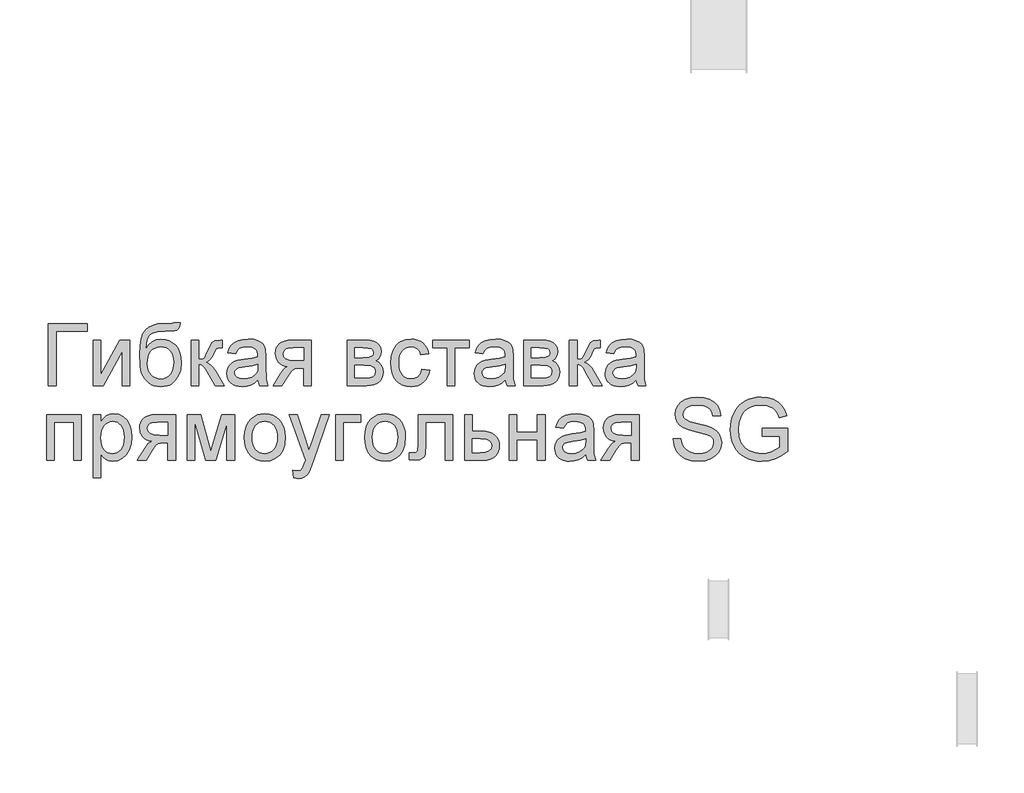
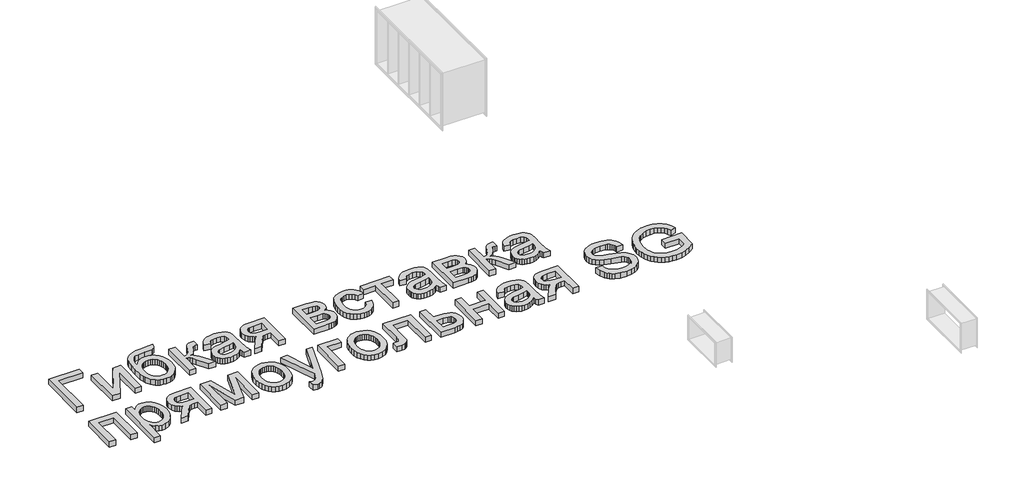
# One storey, part 24 of 31: 1 proxy.
"""IFC4 building model written with IfcOpenShell, lengths in millimetres."""

import ifcopenshell
import ifcopenshell.guid

model = None  # the IFC model being written
_history = None  # IfcOwnerHistory: only IFC2X3 demands one
_inside = {}  # id of a spatial element -> (the spatial element, [elements in it])
_under = {}  # id of a project, library or spatial element -> (it, [spatial elements below it])
_declared = {}  # id of a project -> (the project, [libraries it declares])
_typed = {}  # id of a type object -> (the type object, [elements of that type])
_made_of = {}  # id of a material, layer set ... -> (it, [elements and type objects made of it])


def new_model(schema):
    """Start an empty IFC model of exactly this schema.

    Asked for "IFC4X3", IfcOpenShell would pick the latest addendum, in which some entities
    have other attributes; the version numbers below select the first issue.
    IFC2X3 requires an IfcOwnerHistory on every rooted entity: one is made here for all.
    """
    global model, _history
    if schema == "IFC4X3":
        model = ifcopenshell.file(schema_version=(4, 3, 0, 0))
    else:
        model = ifcopenshell.file(schema=schema)
    _inside.clear()
    _under.clear()
    _declared.clear()
    _typed.clear()
    _made_of.clear()
    _history = None
    if model.schema == "IFC2X3":
        org = make("IfcOrganization", Name="unknown")
        user = make(
            "IfcPersonAndOrganization",
            ThePerson=make("IfcPerson", FamilyName="unknown"),
            TheOrganization=org,
        )
        app = make(
            "IfcApplication",
            ApplicationDeveloper=org,
            Version="unknown",
            ApplicationFullName="unknown",
            ApplicationIdentifier="unknown",
        )
        _history = make(
            "IfcOwnerHistory",
            OwningUser=user,
            OwningApplication=app,
            ChangeAction="ADDED",
            CreationDate=0,
        )
    return model


def make(cls, **values):
    """One entity of the class cls with the attributes given. An attribute that is None is left unset."""
    return model.create_entity(
        cls, **{name: value for name, value in values.items() if value is not None}
    )


def rooted(cls, **values):
    """An entity with a GlobalId (a new one), such as an element, a storey or a relation."""
    return make(cls, GlobalId=ifcopenshell.guid.new(), OwnerHistory=_history, **values)


def si_unit(unit_type, name, prefix=None):
    """IfcSIUnit, for example si_unit("LENGTHUNIT", "METRE", prefix="MILLI")."""
    return make("IfcSIUnit", UnitType=unit_type, Prefix=prefix, Name=name)


def assignment(units):
    """IfcUnitAssignment: the units of a project."""
    return None if units is None else make("IfcUnitAssignment", Units=units)


def point(xyz):
    """IfcCartesianPoint."""
    return None if xyz is None else make("IfcCartesianPoint", Coordinates=xyz)


def direction(xyz):
    """IfcDirection."""
    return None if xyz is None else make("IfcDirection", DirectionRatios=xyz)


def frame(location, z_axis=None, x_axis=None):
    """IfcAxis2Placement3D, a coordinate frame: its origin and axes. An axis left out is left unset."""
    return make(
        "IfcAxis2Placement3D",
        Location=point(location),
        Axis=direction(z_axis),
        RefDirection=direction(x_axis),
    )


def origin():
    """The frame at (0, 0, 0) with its axes left unset."""
    return frame((0.0, 0.0, 0.0))


def origin_with_axes():
    """The frame at (0, 0, 0) with the z axis (0, 0, 1) and the x axis (1, 0, 0) written out."""
    return frame((0.0, 0.0, 0.0), z_axis=(0.0, 0.0, 1.0), x_axis=(1.0, 0.0, 0.0))


def place(relative_to, where):
    """IfcLocalPlacement: puts the frame where relative to a parent placement (None: the world)."""
    return make(
        "IfcLocalPlacement", PlacementRelTo=relative_to, RelativePlacement=where
    )


def context(
    kind, dimensions, precision=None, world=None, true_north=None, identifier=None
):
    """IfcGeometricRepresentationContext, for example the 3D "Model" context."""
    return make(
        "IfcGeometricRepresentationContext",
        ContextIdentifier=identifier,
        ContextType=kind,
        CoordinateSpaceDimension=dimensions,
        Precision=precision,
        WorldCoordinateSystem=world,
        TrueNorth=true_north,
    )


def project(units=None, contexts=None):
    """IfcProject with its units and contexts."""
    return rooted(
        "IfcProject",
        Name="project",
        RepresentationContexts=contexts,
        UnitsInContext=assignment(units),
    )


def spatial(cls, under=None, at=None, **own):
    """A site, building, storey or space (cls), placed at a placement, below another one or the project."""
    s = rooted(cls, ObjectPlacement=at, **own)
    if under is not None:
        _under.setdefault(under.id(), (under, []))[1].append(s)
    return s


def polyline(points):
    """IfcPolyline through the points."""
    return make("IfcPolyline", Points=[point(p) for p in points])


def outline(outer, holes=None, kind="AREA"):
    """IfcArbitraryClosedProfileDef: a profile drawn as a closed curve; with holes, ...WithVoids."""
    if holes is None:
        return make("IfcArbitraryClosedProfileDef", ProfileType=kind, OuterCurve=outer)
    return make(
        "IfcArbitraryProfileDefWithVoids",
        ProfileType=kind,
        OuterCurve=outer,
        InnerCurves=holes,
    )


def extrude(swept, where, along, depth):
    """IfcExtrudedAreaSolid: the profile swept, set in the frame where, extruded along a direction by depth."""
    return make(
        "IfcExtrudedAreaSolid",
        SweptArea=swept,
        Position=where,
        ExtrudedDirection=direction(along),
        Depth=depth,
    )


def shape(context_of_items, identifier, shape_type, items):
    """IfcShapeRepresentation: the items that make up one representation, for example the "Body"."""
    return make(
        "IfcShapeRepresentation",
        ContextOfItems=context_of_items,
        RepresentationIdentifier=identifier,
        RepresentationType=shape_type,
        Items=items,
    )


def made_of(thing, what):
    """Note that an element or type object is made of a material, layer set ...; save() writes the relation."""
    if what is not None:
        _made_of.setdefault(what.id(), (what, []))[1].append(thing)
    return thing


def element(
    cls,
    number,
    at=None,
    inside=None,
    cuts=None,
    type_object=None,
    material=None,
    context=None,
    identifier="Body",
    shape_type=None,
    held_by="IfcProductDefinitionShape",
    body=None,
    shapes=None,
    **own,
):
    """One element of the class cls, such as IfcWall. Its Tag is "e" and its number.

    at: its placement. inside: the storey or other place that contains it. cuts: it is an
    opening in that element (IfcRelVoidsElement). A single representation is given by context,
    identifier, shape_type and body (its items); several are given by shapes. held_by: the class
    of the entity that holds the representations. save() writes the other relations.
    """
    e = rooted(cls, Tag="e%d" % number, ObjectPlacement=at, **own)
    if body is not None:
        shapes = [shape(context, identifier, shape_type, body)]
    if shapes is not None:
        e.Representation = make(held_by, Representations=shapes)
    if inside is not None:
        _inside.setdefault(inside.id(), (inside, []))[1].append(e)
    if cuts is not None:
        rooted(
            "IfcRelVoidsElement", RelatingBuildingElement=cuts, RelatedOpeningElement=e
        )
    if type_object is not None:
        _typed.setdefault(type_object.id(), (type_object, []))[1].append(e)
    return made_of(e, material)


def aggregate(whole, parts):
    """IfcRelAggregates: a whole, such as a stair, and the parts it consists of."""
    return rooted("IfcRelAggregates", RelatingObject=whole, RelatedObjects=parts)


def save(model, path):
    """Write the relations noted so far, then the file.

    IfcRelAggregates (storeys below a building ...), IfcRelContainedInSpatialStructure (elements
    in a storey), IfcRelDefinesByType, IfcRelAssociatesMaterial and IfcRelDeclares: one each for
    every whole, place, type object, material and project.
    """
    for whole, parts in _under.values():
        aggregate(whole, parts)
    for where, things in _inside.values():
        rooted(
            "IfcRelContainedInSpatialStructure",
            RelatedElements=things,
            RelatingStructure=where,
        )
    for kind, things in _typed.values():
        rooted("IfcRelDefinesByType", RelatedObjects=things, RelatingType=kind)
    for what, things in _made_of.values():
        rooted("IfcRelAssociatesMaterial", RelatedObjects=things, RelatingMaterial=what)
    for by, libraries in _declared.values():
        rooted("IfcRelDeclares", RelatingContext=by, RelatedDefinitions=libraries)
    model.write(path)


model = new_model("IFC4")

# Units and contexts
model_context = context("Model", 3, world=origin())
ifc_project = project(units=[si_unit("LENGTHUNIT", "METRE", prefix="MILLI")], contexts=[model_context])

# Site, building, storey
site = spatial("IfcSite", under=ifc_project)
building = spatial("IfcBuilding", under=site)
storey = spatial("IfcBuildingStorey", under=building, Name="Этаж 01", Elevation=0.0)

# Proxy
placement = place(None, origin())
element("IfcBuildingElementProxy", 1, Name="450 мм Arial", ObjectType="450 мм Arial", at=placement, inside=storey, context=model_context, shape_type="SweptSolid", body=[
    extrude(outline(polyline([(62278.9545401, -43063.4194094), (62559.9896294, -43063.4194094), (62559.9896294, -43119.6264273), (62335.1615579, -43119.6264273), (62335.1615579, -43513.0755522), (62278.9545401, -43513.0755522), (62278.9545401, -43063.4194094)])), origin_with_axes(), (0.0, 0.0, 1.0), 50.0),
    extrude(outline(polyline([(62602.1448927, -43182.8593223), (62658.3519106, -43182.8593223), (62658.3519106, -43434.6931094), (62796.4543099, -43182.8593223), (62869.1282275, -43182.8593223), (62869.1282275, -43513.0755522), (62812.9212097, -43513.0755522), (62812.9212097, -43262.7786758), (62675.697045, -43513.0755522), (62602.1448927, -43513.0755522), (62602.1448927, -43182.8593223)])), origin_with_axes(), (0.0, 0.0, 1.0), 50.0),
    extrude(outline(polyline([(63185.292703, -43056.3935322), (63234.4738436, -43056.3935322), (63229.149546, -43083.111077), (63219.9829718, -43100.2503752), (63207.2760141, -43110.391241), (63191.3305662, -43116.1134886), (63122.4989252, -43119.6264273), (63065.3450606, -43122.8649175), (63029.7902795, -43132.5803884), (63008.520534, -43149.4315158), (62994.2217761, -43174.0769758), (62985.8099348, -43206.7088822), (62982.2009392, -43247.5193487), (63004.8017592, -43216.1224599), (63030.8880729, -43193.7274762), (63060.4873252, -43180.3069529), (63093.626961, -43175.8334451), (63124.2485333, -43178.6774159), (63152.1118999, -43187.2093284), (63177.2170609, -43201.4291824), (63199.5640161, -43221.3369781), (63217.9108869, -43246.095648), (63231.0157946, -43274.8681248), (63238.8787393, -43307.6544083), (63241.4997208, -43344.4544987), (63236.298925, -43398.109147), (63229.7979302, -43420.9638317), (63220.6965374, -43441.1700899), (63197.9584934, -43474.6390637), (63171.3507278, -43499.5178047), (63155.7895076, -43508.5231406), (63137.648473, -43514.9555233), (63093.626961, -43520.1014294), (63066.6727044, -43518.4444477), (63042.8951873, -43513.4735023), (63022.2944096, -43505.1885934), (63004.8703712, -43493.5897208), (62976.8903641, -43463.3729598), (62956.2930169, -43425.7460938), (62948.8966345, -43401.2481498), (62943.6135041, -43369.0862362), (62939.3869999, -43281.7705002), (62942.0525793, -43222.5891486), (62950.0493175, -43173.9260292), (62963.3772144, -43135.781142), (62982.0362702, -43108.1544871), (63006.2254599, -43088.5828906), (63036.1437584, -43074.6031788), (63071.7911658, -43066.2153518), (63113.167682, -43063.4194094), (63175.7419011, -43062.1569471), (63185.292703, -43056.3935322)]), holes=[polyline([(63185.292703, -43342.6980294), (63183.7695147, -43319.4831313), (63179.1999501, -43298.4706811), (63171.5840089, -43279.6606787), (63160.9216913, -43263.0531242), (63147.4874456, -43249.4850849), (63131.5557201, -43239.7936283), (63113.1265148, -43233.9787543), (63092.1998296, -43232.040463), (63070.3606038, -43234.0885336), (63051.1698044, -43240.2327456), (63034.6274314, -43250.4730989), (63020.7334847, -43264.8095935), (63009.7349679, -43282.569831), (63001.8788845, -43303.081413), (62997.1652344, -43326.3443395), (62995.5940177, -43352.3586105), (62997.3299034, -43377.8308461), (63002.5375604, -43400.1263423), (63011.2169889, -43419.245099), (63023.3681886, -43435.1871163), (63038.0648967, -43447.746558), (63054.3808499, -43456.7175878), (63072.3160482, -43462.1002056), (63091.8704916, -43463.8944116), (63111.6925222, -43461.8188961), (63129.5522473, -43455.5923496), (63145.4496667, -43445.2147722), (63159.3847807, -43430.6861637), (63170.7194967, -43412.7338124), (63178.8157224, -43392.0850062), (63183.6734578, -43368.7397452), (63185.292703, -43342.6980294)])]), origin_with_axes(), (0.0, 0.0, 1.0), 50.0),
    extrude(outline(polyline([(63311.7584931, -43182.8593223), (63367.965511, -43182.8593223), (63367.965511, -43323.376867), (63390.8270568, -43320.8519423), (63405.6198218, -43313.2771684), (63418.7110071, -43293.5168887), (63436.467814, -43254.4354466), (63450.7802944, -43222.4759387), (63462.101288, -43203.6625057), (63472.6675486, -43193.4118606), (63484.7158303, -43187.1407163), (63525.82819, -43182.8593223), (63536.5865645, -43182.8593223), (63536.5865645, -43239.3956782), (63521.4370168, -43239.0663402), (63503.8723237, -43240.5483612), (63493.9921838, -43244.9944241), (63474.6710214, -43281.9900589), (63462.8011312, -43306.6492413), (63452.0015894, -43322.0046253), (63438.9241265, -43332.2552704), (63420.2204729, -43341.600236), (63438.0321695, -43349.5112091), (63455.679197, -43363.4737679), (63473.1615556, -43383.4879123), (63490.4792452, -43409.5536424), (63550.638319, -43513.0755522), (63486.7467479, -43513.0755522), (63427.7952468, -43411.749229), (63411.8772437, -43384.7846807), (63398.1548272, -43368.8804), (63384.2951866, -43361.0997898), (63367.965511, -43358.5062531), (63367.965511, -43513.0755522), (63311.7584931, -43513.0755522), (63311.7584931, -43182.8593223)])), origin_with_axes(), (0.0, 0.0, 1.0), 50.0),
    extrude(outline(polyline([(63796.5440221, -43470.9202888), (63769.6892531, -43493.9465037), (63742.0385839, -43509.0137169), (63712.9607834, -43517.3295013), (63681.8246204, -43520.1014294), (63656.7983634, -43518.4341558), (63634.8527889, -43513.432335), (63615.9878968, -43505.095967), (63600.2036873, -43493.4250518), (63587.7403025, -43479.1605999), (63578.8378848, -43463.0436218), (63573.4964342, -43445.0741174), (63571.7159507, -43425.2520868), (63574.4055443, -43401.9514237), (63582.4743252, -43380.7914575), (63594.9205569, -43362.6778677), (63610.7425031, -43348.5163339), (63629.3363774, -43337.8128491), (63650.0983936, -43330.0734062), (63698.7306375, -43321.6203977), (63756.2001177, -43312.7282718), (63796.2146841, -43302.2992353), (63796.5440221, -43289.7843915), (63792.6743007, -43264.6998141), (63781.0651363, -43248.2878041), (63755.1023244, -43236.1022982), (63718.9300346, -43232.040463), (63685.4473384, -43234.743779), (63662.0643407, -43242.8537271), (63646.1188928, -43257.8523283), (63634.9488458, -43281.2216036), (63578.7418279, -43274.1957263), (63588.498466, -43243.4575135), (63603.0579499, -43219.3060605), (63623.7787988, -43200.8356879), (63652.0195319, -43187.1407163), (63686.5588541, -43178.6602629), (63726.1754705, -43175.8334451), (63764.1728417, -43178.3309249), (63794.2935458, -43185.8233643), (63817.0041451, -43197.0894682), (63832.7712016, -43210.9079416), (63843.2276829, -43227.9923501), (63850.0065567, -43249.0562594), (63852.75104, -43298.2374), (63852.75104, -43368.1668343), (63855.6053026, -43465.8155499), (63866.8027944, -43513.0755522), (63810.5957766, -43513.0755522), (63801.5938714, -43493.5348312), (63796.5440221, -43470.9202888)]), holes=[polyline([(63796.5440221, -43358.5062531), (63758.779932, -43367.8649412), (63705.8662941, -43375.7416082), (63657.5084985, -43384.8532927), (63644.9250426, -43391.0832698), (63635.6075218, -43399.6735025), (63629.8441069, -43409.9653149), (63627.9229685, -43421.3000309), (63632.1083056, -43438.0139341), (63644.6643166, -43451.7089058), (63665.3165534, -43460.8480351), (63693.7905676, -43463.8944116), (63723.9798838, -43460.5324196), (63750.6562614, -43450.4464435), (63772.2827898, -43435.5850664), (63787.3225582, -43417.8968716), (63793.9916526, -43399.6735025), (63796.2146841, -43374.4242562), (63796.5440221, -43358.5062531)])]), origin_with_axes(), (0.0, 0.0, 1.0), 50.0),
    extrude(outline(polyline([(64182.9672698, -43182.8593223), (64182.9672698, -43513.0755522), (64126.760252, -43513.0755522), (64126.760252, -43386.609762), (64096.1318184, -43386.609762), (64071.7059171, -43388.3936762), (64054.4156724, -43393.7454186), (64037.7566588, -43409.3066389), (64015.2244509, -43441.7189866), (63970.4344836, -43513.0755522), (63905.4451192, -43513.0755522), (63961.8716957, -43422.8369415), (63986.791604, -43390.4520387), (63998.5105477, -43381.0110161), (64009.7354843, -43376.0709462), (63989.09697, -43371.5082427), (63971.3127182, -43364.2971129), (63956.3827291, -43354.4375566), (63944.3070026, -43341.929574), (63928.3341099, -43312.1793751), (63923.0098123, -43278.2575616), (63924.8280325, -43258.0169973), (63930.282693, -43239.7799058), (63939.3737939, -43223.5462872), (63952.1013352, -43209.3161413), (63968.273203, -43197.741283), (63987.6972835, -43189.4735271), (64010.3735767, -43184.5128735), (64036.3020826, -43182.8593223), (64182.9672698, -43182.8593223)]), holes=[polyline([(64126.760252, -43239.0663402), (64052.6592031, -43239.0663402), (64014.3873835, -43242.3185529), (64001.4574366, -43246.3838188), (63992.6647983, -43252.075191), (63982.5788222, -43266.1955575), (63979.2168301, -43282.5389556), (63984.1706225, -43303.9596477), (63999.0319995, -43318.8210247), (64026.4905549, -43327.5073143), (64069.2358822, -43330.4027442), (64126.760252, -43330.4027442), (64126.760252, -43239.0663402)])]), origin_with_axes(), (0.0, 0.0, 1.0), 50.0),
    extrude(outline(polyline([(64442.9247274, -43182.8593223), (64566.7558136, -43182.8593223), (64606.5645438, -43184.7392934), (64634.6543303, -43190.3792066), (64655.3202895, -43201.0278017), (64672.8575377, -43217.9338188), (64684.8372073, -43239.9582973), (64688.8304305, -43265.9622765), (64686.4152852, -43286.9164064), (64679.1698493, -43304.9888289), (64667.066678, -43320.2618784), (64650.0783264, -43332.8178895), (64670.8815098, -43344.4956659), (64687.8424165, -43363.2816541), (64699.1222429, -43387.693833), (64702.882185, -43416.2501816), (64699.7603352, -43439.2558128), (64693.3588279, -43459.0915658), (64683.6776631, -43475.7574406), (64670.7168408, -43489.2534372), (64654.4557773, -43499.6756125), (64634.873889, -43507.1200235), (64611.9711759, -43511.58667), (64585.747638, -43513.0755522), (64442.9247274, -43513.0755522), (64442.9247274, -43182.8593223)]), holes=[polyline([(64499.1317453, -43309.3251125), (64554.6800871, -43309.3251125), (64600.5129581, -43306.4708499), (64622.7981625, -43295.0537994), (64630.1671001, -43285.6127768), (64632.6234127, -43274.415285), (64628.3145739, -43257.6464921), (64615.3880576, -43246.8606727), (64592.0325047, -43241.0149233), (64556.4365564, -43239.0663402), (64499.1317453, -43239.0663402), (64499.1317453, -43309.3251125)]), polyline([(64499.1317453, -43456.8685344), (64568.0731656, -43456.8685344), (64605.6451419, -43454.3298873), (64629.2202534, -43446.7139462), (64641.8723214, -43432.868028), (64646.6751671, -43411.6394497), (64644.2737442, -43397.5739728), (64637.0694756, -43384.5788444), (64626.0092079, -43374.4105338), (64612.039788, -43368.8255103), (64562.584199, -43365.5321304), (64499.1317453, -43365.5321304), (64499.1317453, -43456.8685344)])]), origin_with_axes(), (0.0, 0.0, 1.0), 50.0),
    extrude(outline(polyline([(64983.9172742, -43393.6356393), (65040.1242921, -43400.6615165), (65034.0109555, -43427.1835169), (65024.4532925, -43450.6522797), (65011.4513029, -43471.0678048), (64995.0049867, -43488.4300922), (64975.8073261, -43502.2863023), (64954.551303, -43512.1835951), (64931.2369174, -43518.1219709), (64905.8641694, -43520.1014294), (64874.3403481, -43517.3397931), (64846.0756008, -43509.0548842), (64821.0699274, -43495.2467026), (64799.3233279, -43475.9152484), (64781.7208982, -43451.4241656), (64769.1477341, -43422.1370983), (64761.6038356, -43388.0540464), (64759.0892028, -43349.1750099), (64763.3843192, -43299.1568019), (64776.2696682, -43255.8076883), (64785.9851391, -43237.0525756), (64797.9510863, -43220.8018039), (64812.1675097, -43207.0553732), (64828.6344095, -43195.8132835), (64865.3418735, -43180.8284047), (64905.095714, -43175.8334451), (64930.0327754, -43177.5487472), (64952.5889974, -43182.6946533), (64972.7643802, -43191.2711636), (64990.5589238, -43203.278278), (65005.6707349, -43218.4415482), (65017.7979205, -43236.4865259), (65026.9404805, -43257.413211), (65033.0984149, -43281.2216036), (64976.891397, -43288.2474808), (64966.6956416, -43263.7255226), (64950.8188057, -43246.1471071), (64930.1391241, -43235.567124), (64905.5348314, -43232.040463), (64886.4366582, -43233.7763486), (64869.211595, -43238.9840057), (64853.8596416, -43247.6634341), (64840.380798, -43259.8146339), (64829.4062954, -43275.7189146), (64821.567365, -43295.6575857), (64816.8640068, -43319.6306473), (64815.2962207, -43347.6380993), (64816.8297007, -43376.0675156), (64821.4301408, -43400.3184561), (64829.097541, -43420.3909208), (64839.8319013, -43436.2849097), (64853.0431578, -43448.3640668), (64868.1412465, -43456.9920361), (64885.1261675, -43462.1688177), (64903.9979207, -43463.8944116), (64933.1031661, -43459.5855728), (64956.9664483, -43446.6590565), (64974.3253051, -43424.7855247), (64983.9172742, -43393.6356393)])), origin_with_axes(), (0.0, 0.0, 1.0), 50.0),
    extrude(outline(polyline([(65061.2019238, -43182.8593223), (65328.1852586, -43182.8593223), (65328.1852586, -43239.0663402), (65222.7971001, -43239.0663402), (65222.7971001, -43513.0755522), (65166.5900823, -43513.0755522), (65166.5900823, -43239.0663402), (65061.2019238, -43239.0663402), (65061.2019238, -43182.8593223)])), origin_with_axes(), (0.0, 0.0, 1.0), 50.0),
    extrude(outline(polyline([(65588.1427161, -43470.9202888), (65561.2879471, -43493.9465037), (65533.6372779, -43509.0137169), (65504.5594774, -43517.3295013), (65473.4233145, -43520.1014294), (65448.3970574, -43518.4341558), (65426.4514829, -43513.432335), (65407.5865909, -43505.095967), (65391.8023813, -43493.4250518), (65379.3389966, -43479.1605999), (65370.4365789, -43463.0436218), (65365.0951283, -43445.0741174), (65363.3146447, -43425.2520868), (65366.0042384, -43401.9514237), (65374.0730192, -43380.7914575), (65386.519251, -43362.6778677), (65402.3411972, -43348.5163339), (65420.9350715, -43337.8128491), (65441.6970876, -43330.0734062), (65490.3293316, -43321.6203977), (65547.7988117, -43312.7282718), (65587.8133781, -43302.2992353), (65588.1427161, -43289.7843915), (65584.2729947, -43264.6998141), (65572.6638304, -43248.2878041), (65546.7010184, -43236.1022982), (65510.5287286, -43232.040463), (65477.0460324, -43234.743779), (65453.6630348, -43242.8537271), (65437.7175868, -43257.8523283), (65426.5475398, -43281.2216036), (65370.340522, -43274.1957263), (65380.0971601, -43243.4575135), (65394.6566439, -43219.3060605), (65415.3774928, -43200.8356879), (65443.6182259, -43187.1407163), (65478.1575482, -43178.6602629), (65517.7741645, -43175.8334451), (65555.7715357, -43178.3309249), (65585.8922398, -43185.8233643), (65608.6028391, -43197.0894682), (65624.3698956, -43210.9079416), (65634.826377, -43227.9923501), (65641.6052507, -43249.0562594), (65644.349734, -43298.2374), (65644.349734, -43368.1668343), (65647.2039966, -43465.8155499), (65658.4014885, -43513.0755522), (65602.1944706, -43513.0755522), (65593.1925654, -43493.5348312), (65588.1427161, -43470.9202888)]), holes=[polyline([(65588.1427161, -43358.5062531), (65550.378626, -43367.8649412), (65497.4649881, -43375.7416082), (65449.1071925, -43384.8532927), (65436.5237366, -43391.0832698), (65427.2062158, -43399.6735025), (65421.4428009, -43409.9653149), (65419.5216626, -43421.3000309), (65423.7069996, -43438.0139341), (65436.2630107, -43451.7089058), (65456.9152475, -43460.8480351), (65485.3892616, -43463.8944116), (65515.5785779, -43460.5324196), (65542.2549555, -43450.4464435), (65563.8814838, -43435.5850664), (65578.9212523, -43417.8968716), (65585.5903467, -43399.6735025), (65587.8133781, -43374.4242562), (65588.1427161, -43358.5062531)])]), origin_with_axes(), (0.0, 0.0, 1.0), 50.0),
    extrude(outline(polyline([(65721.6343835, -43182.8593223), (65845.4654697, -43182.8593223), (65885.2741999, -43184.7392934), (65913.3639864, -43190.3792066), (65934.0299456, -43201.0278017), (65951.5671939, -43217.9338188), (65963.5468635, -43239.9582973), (65967.5400866, -43265.9622765), (65965.1249413, -43286.9164064), (65957.8795055, -43304.9888289), (65945.7763341, -43320.2618784), (65928.7879825, -43332.8178895), (65949.5911659, -43344.4956659), (65966.5520727, -43363.2816541), (65977.831899, -43387.693833), (65981.5918411, -43416.2501816), (65978.4699914, -43439.2558128), (65972.0684841, -43459.0915658), (65962.3873193, -43475.7574406), (65949.4264969, -43489.2534372), (65933.1654334, -43499.6756125), (65913.5835451, -43507.1200235), (65890.680832, -43511.58667), (65864.4572941, -43513.0755522), (65721.6343835, -43513.0755522), (65721.6343835, -43182.8593223)]), holes=[polyline([(65777.8414014, -43456.8685344), (65846.7828217, -43456.8685344), (65884.354798, -43454.3298873), (65907.9299095, -43446.7139462), (65920.5819775, -43432.868028), (65925.3848233, -43411.6394497), (65922.9834004, -43397.5739728), (65915.7791317, -43384.5788444), (65904.7188641, -43374.4105338), (65890.7494441, -43368.8255103), (65841.2938551, -43365.5321304), (65777.8414014, -43365.5321304), (65777.8414014, -43456.8685344)]), polyline([(65777.8414014, -43309.3251125), (65833.3897433, -43309.3251125), (65879.2226143, -43306.4708499), (65901.5078186, -43295.0537994), (65908.8767562, -43285.6127768), (65911.3330688, -43274.415285), (65907.02423, -43257.6464921), (65894.0977137, -43246.8606727), (65870.7421609, -43241.0149233), (65835.1462126, -43239.0663402), (65777.8414014, -43239.0663402), (65777.8414014, -43309.3251125)])]), origin_with_axes(), (0.0, 0.0, 1.0), 50.0),
    extrude(outline(polyline([(66051.8506134, -43182.8593223), (66108.0576313, -43182.8593223), (66108.0576313, -43323.376867), (66130.9191771, -43320.8519423), (66145.7119421, -43313.2771684), (66158.8031274, -43293.5168887), (66176.5599343, -43254.4354466), (66190.8724147, -43222.4759387), (66202.1934082, -43203.6625057), (66212.7596689, -43193.4118606), (66224.8079506, -43187.1407163), (66265.9203103, -43182.8593223), (66276.6786848, -43182.8593223), (66276.6786848, -43239.3956782), (66261.5291371, -43239.0663402), (66243.964444, -43240.5483612), (66234.0843041, -43244.9944241), (66214.7631417, -43281.9900589), (66202.8932515, -43306.6492413), (66192.0937097, -43322.0046253), (66179.0162468, -43332.2552704), (66160.3125932, -43341.600236), (66178.1242898, -43349.5112091), (66195.7713173, -43363.4737679), (66213.2536759, -43383.4879123), (66230.5713655, -43409.5536424), (66290.7304393, -43513.0755522), (66226.8388682, -43513.0755522), (66167.8873671, -43411.749229), (66151.969364, -43384.7846807), (66138.2469475, -43368.8804), (66124.3873069, -43361.0997898), (66108.0576313, -43358.5062531), (66108.0576313, -43513.0755522), (66051.8506134, -43513.0755522), (66051.8506134, -43182.8593223)])), origin_with_axes(), (0.0, 0.0, 1.0), 50.0),
    extrude(outline(polyline([(66536.6361424, -43470.9202888), (66509.7813734, -43493.9465037), (66482.1307042, -43509.0137169), (66453.0529037, -43517.3295013), (66421.9167407, -43520.1014294), (66396.8904837, -43518.4341558), (66374.9449092, -43513.432335), (66356.0800171, -43505.095967), (66340.2958076, -43493.4250518), (66327.8324228, -43479.1605999), (66318.9300051, -43463.0436218), (66313.5885545, -43445.0741174), (66311.808071, -43425.2520868), (66314.4976646, -43401.9514237), (66322.5664455, -43380.7914575), (66335.0126772, -43362.6778677), (66350.8346234, -43348.5163339), (66369.4284977, -43337.8128491), (66390.1905139, -43330.0734062), (66438.8227578, -43321.6203977), (66496.292238, -43312.7282718), (66536.3068044, -43302.2992353), (66536.6361424, -43289.7843915), (66532.766421, -43264.6998141), (66521.1572566, -43248.2878041), (66495.1944447, -43236.1022982), (66459.0221549, -43232.040463), (66425.5394587, -43234.743779), (66402.156461, -43242.8537271), (66386.2110131, -43257.8523283), (66375.0409661, -43281.2216036), (66318.8339482, -43274.1957263), (66328.5905863, -43243.4575135), (66343.1500702, -43219.3060605), (66363.8709191, -43200.8356879), (66392.1116522, -43187.1407163), (66426.6509744, -43178.6602629), (66466.2675908, -43175.8334451), (66504.264962, -43178.3309249), (66534.3856661, -43185.8233643), (66557.0962654, -43197.0894682), (66572.8633219, -43210.9079416), (66583.3198032, -43227.9923501), (66590.098677, -43249.0562594), (66592.8431603, -43298.2374), (66592.8431603, -43368.1668343), (66595.6974229, -43465.8155499), (66606.8949147, -43513.0755522), (66550.6878969, -43513.0755522), (66541.6859917, -43493.5348312), (66536.6361424, -43470.9202888)]), holes=[polyline([(66536.6361424, -43358.5062531), (66498.8720523, -43367.8649412), (66445.9584144, -43375.7416082), (66397.6006187, -43384.8532927), (66385.0171628, -43391.0832698), (66375.6996421, -43399.6735025), (66369.9362271, -43409.9653149), (66368.0150888, -43421.3000309), (66372.2004259, -43438.0139341), (66384.7564369, -43451.7089058), (66405.4086737, -43460.8480351), (66433.8826879, -43463.8944116), (66464.0720041, -43460.5324196), (66490.7483817, -43450.4464435), (66512.3749101, -43435.5850664), (66527.4146785, -43417.8968716), (66534.0837729, -43399.6735025), (66536.3068044, -43374.4242562), (66536.6361424, -43358.5062531)])]), origin_with_axes(), (0.0, 0.0, 1.0), 50.0),
    extrude(outline(polyline([(62264.9027856, -43723.2914055), (62517.834366, -43723.2914055), (62517.834366, -44053.5076354), (62461.6273481, -44053.5076354), (62461.6273481, -43779.4984234), (62321.1098035, -43779.4984234), (62321.1098035, -44053.5076354), (62264.9027856, -44053.5076354), (62264.9027856, -43723.2914055)])), origin_with_axes(), (0.0, 0.0, 1.0), 50.0),
    extrude(outline(polyline([(62602.1448927, -44179.9734256), (62602.1448927, -43723.2914055), (62658.3519106, -43723.2914055), (62658.3519106, -43778.40063), (62676.685059, -43751.216523), (62697.213794, -43731.7993037), (62721.1456884, -43720.1489721), (62749.6883146, -43716.2655283), (62787.6994082, -43721.6996052), (62820.9351009, -43738.001836), (62847.9957062, -43764.1842066), (62867.4815376, -43799.2587031), (62879.2553709, -43840.672956), (62883.179982, -43885.8745958), (62878.7476415, -43933.9442207), (62865.4506199, -43976.9365515), (62843.7143122, -44012.669724), (62813.9641133, -44038.9618739), (62779.3150118, -44055.140603), (62742.881996, -44060.5335126), (62717.0426858, -44056.9245171), (62693.9753037, -44046.0975305), (62674.2287465, -44029.7541325), (62658.3519106, -44009.5959027), (62658.3519106, -44179.9734256), (62602.1448927, -44179.9734256)]), holes=[polyline([(62658.3519106, -43891.0342244), (62659.8716682, -43918.1222745), (62664.4309411, -43941.4229377), (62672.0297292, -43960.9362139), (62682.6680326, -43976.6621032), (62695.4744777, -43988.7652745), (62709.5776913, -43997.4103969), (62724.9776732, -44002.5974703), (62741.6744234, -44004.3264948), (62758.6113159, -44002.5357194), (62774.2926073, -43997.1633934), (62788.7182976, -43988.2095166), (62801.8883869, -43975.6740892), (62812.8628894, -43959.3787196), (62820.7018198, -43939.1450166), (62825.4051781, -43914.9729799), (62826.9729642, -43886.8626098), (62825.4429147, -43860.0078408), (62820.8527664, -43836.7483449), (62813.2025192, -43817.0841221), (62802.4921732, -43801.0151724), (62789.6548526, -43788.5277734), (62775.6236817, -43779.6082027), (62760.3986607, -43774.2564603), (62743.9797894, -43772.4725461), (62727.6123771, -43774.3696702), (62712.2123952, -43780.0610424), (62697.7798437, -43789.5466628), (62684.3147226, -43802.8265314), (62672.9559923, -43819.7222566), (62664.8426136, -43840.0554472), (62659.9745863, -43863.8261032), (62658.3519106, -43891.0342244)])]), origin_with_axes(), (0.0, 0.0, 1.0), 50.0),
    extrude(outline(polyline([(63199.3444574, -43723.2914055), (63199.3444574, -44053.5076354), (63143.1374396, -44053.5076354), (63143.1374396, -43927.0418452), (63112.509006, -43927.0418452), (63088.0831047, -43928.8257594), (63070.79286, -43934.1775018), (63054.1338464, -43949.7387221), (63031.6016385, -43982.1510698), (62986.8116712, -44053.5076354), (62921.8223068, -44053.5076354), (62978.2488833, -43963.2690247), (63003.1687916, -43930.8841218), (63014.8877353, -43921.4430993), (63026.1126719, -43916.5030294), (63005.4741576, -43911.9403259), (62987.6899058, -43904.7291961), (62972.7599167, -43894.8696398), (62960.6841902, -43882.3616572), (62944.7112974, -43852.6114583), (62939.3869999, -43818.6896448), (62941.20522, -43798.4490805), (62946.6598806, -43780.211989), (62955.7509815, -43763.9783703), (62968.4785228, -43749.7482245), (62984.6503906, -43738.1733662), (63004.0744711, -43729.9056103), (63026.7507643, -43724.9449567), (63052.6792702, -43723.2914055), (63199.3444574, -43723.2914055)]), holes=[polyline([(63143.1374396, -43779.4984234), (63069.0363906, -43779.4984234), (63030.7645711, -43782.7506361), (63017.8346242, -43786.8159019), (63009.0419858, -43792.5072742), (62998.9560097, -43806.6276407), (62995.5940177, -43822.9710387), (63000.5478101, -43844.3917308), (63015.4091871, -43859.2531079), (63042.8677424, -43867.9393975), (63085.6130697, -43870.8348274), (63143.1374396, -43870.8348274), (63143.1374396, -43779.4984234)])]), origin_with_axes(), (0.0, 0.0, 1.0), 50.0),
    extrude(outline(polyline([(63283.6549842, -43723.2914055), (63380.3705755, -43723.2914055), (63454.9107417, -43987.6400363), (63535.2692126, -43723.2914055), (63627.9229685, -43723.2914055), (63627.9229685, -44053.5076354), (63571.7159507, -44053.5076354), (63571.7159507, -43787.6220939), (63490.9183625, -44053.5076354), (63417.1466516, -44053.5076354), (63339.8620021, -43774.8876914), (63339.8620021, -44053.5076354), (63283.6549842, -44053.5076354), (63283.6549842, -43723.2914055)])), origin_with_axes(), (0.0, 0.0, 1.0), 50.0),
    extrude(outline(polyline([(63698.1817409, -43888.3995205), (63701.2212561, -43845.6336095), (63710.3398019, -43808.7820601), (63725.5373781, -43777.8448722), (63746.8139848, -43752.8220458), (63768.2346769, -43736.8285694), (63791.8784005, -43725.4046576), (63817.7451555, -43718.5503106), (63845.8349421, -43716.2655283), (63876.8441727, -43719.0477482), (63904.8825001, -43727.394408), (63929.9499244, -43741.3055077), (63952.0464455, -43760.7810473), (63970.0811314, -43785.1623508), (63982.9630498, -43813.7907421), (63990.6922009, -43846.6662214), (63993.2685846, -43883.7887885), (63988.7127423, -43940.5721479), (63983.0179395, -43963.8796722), (63975.0452155, -43983.7977597), (63952.6639543, -44016.1689402), (63921.9669086, -44040.3890053), (63885.5064481, -44055.4973858), (63845.8349421, -44060.5335126), (63814.3728717, -44057.7615845), (63786.0738183, -44049.4458001), (63760.937782, -44035.5861595), (63738.9647626, -44016.1826626), (63721.1221906, -43991.5646475), (63708.3774963, -43962.0614521), (63700.7306797, -43927.6730764), (63698.1817409, -43888.3995205)]), holes=[polyline([(63754.3887587, -43888.2897411), (63756.0148651, -43915.552752), (63760.8931841, -43939.158739), (63769.0237159, -43959.1077019), (63780.4064603, -43975.3996409), (63794.2523786, -43988.0551394), (63809.7724316, -43997.0947813), (63826.9666194, -44002.5185664), (63845.8349421, -44004.3264948), (63864.6072078, -44002.5082746), (63881.7327835, -43997.053614), (63897.2116693, -43987.9625131), (63911.0438651, -43975.2349719), (63922.4266096, -43958.7817945), (63930.5571413, -43938.5137854), (63935.4354604, -43914.4309445), (63937.0615667, -43886.5332718), (63935.4251686, -43860.1347731), (63930.5159741, -43837.1462949), (63922.3339833, -43817.5678373), (63910.8791961, -43801.3994), (63896.9955413, -43788.7439015), (63881.5269473, -43779.7042596), (63864.4734142, -43774.2804745), (63845.8349421, -43772.4725461), (63826.9666194, -43774.2736133), (63809.7724316, -43779.6768148), (63794.2523786, -43788.6821506), (63780.4064603, -43801.2896207), (63769.0237159, -43817.5335312), (63760.8931841, -43837.4481881), (63756.0148651, -43861.0335914), (63754.3887587, -43888.2897411)])]), origin_with_axes(), (0.0, 0.0, 1.0), 50.0),
    extrude(outline(polyline([(64056.5014797, -44179.9734256), (64049.4756024, -44125.852215), (64078.0182287, -44130.7922849), (64093.0305523, -44129.2416519), (64104.6946063, -44124.5897527), (64121.0517267, -44107.2995079), (64136.4208332, -44065.9126999), (64140.8120064, -44052.3000627), (64021.3720935, -43723.2914055), (64080.6529327, -43723.2914055), (64143.9956071, -43906.6228895), (64166.0612528, -43979.9554831), (64188.1268984, -43915.1856774), (64253.2260422, -43723.2914055), (64312.067764, -43723.2914055), (64197.1288036, -44061.4117473), (64167.2688254, -44134.7443409), (64151.9820535, -44158.1547834), (64134.6643639, -44174.3746796), (64114.5473013, -44183.843147), (64090.8624105, -44186.9993028), (64056.5014797, -44179.9734256)])), origin_with_axes(), (0.0, 0.0, 1.0), 50.0),
    extrude(outline(polyline([(64358.6142006, -43723.2914055), (64541.2870086, -43723.2914055), (64541.2870086, -43779.4984234), (64414.8212185, -43779.4984234), (64414.8212185, -44053.5076354), (64358.6142006, -44053.5076354), (64358.6142006, -43723.2914055)])), origin_with_axes(), (0.0, 0.0, 1.0), 50.0),
    extrude(outline(polyline([(64569.3905176, -43888.3995205), (64572.4300328, -43845.6336095), (64581.5485786, -43808.7820601), (64596.7461548, -43777.8448722), (64618.0227615, -43752.8220458), (64639.4434536, -43736.8285694), (64663.0871772, -43725.4046576), (64688.9539323, -43718.5503106), (64717.0437188, -43716.2655283), (64748.0529494, -43719.0477482), (64776.0912768, -43727.394408), (64801.1587011, -43741.3055077), (64823.2552222, -43760.7810473), (64841.2899081, -43785.1623508), (64854.1718265, -43813.7907421), (64861.9009776, -43846.6662214), (64864.4773613, -43883.7887885), (64859.921519, -43940.5721479), (64854.2267162, -43963.8796722), (64846.2539922, -43983.7977597), (64823.872731, -44016.1689402), (64793.1756853, -44040.3890053), (64756.7152248, -44055.4973858), (64717.0437188, -44060.5335126), (64685.5816484, -44057.7615845), (64657.282595, -44049.4458001), (64632.1465587, -44035.5861595), (64610.1735393, -44016.1826626), (64592.3309673, -43991.5646475), (64579.586273, -43962.0614521), (64571.9394564, -43927.6730764), (64569.3905176, -43888.3995205)]), holes=[polyline([(64625.5975354, -43888.2897411), (64627.2236418, -43915.552752), (64632.1019608, -43939.158739), (64640.2324926, -43959.1077019), (64651.615237, -43975.3996409), (64665.4611553, -43988.0551394), (64680.9812083, -43997.0947813), (64698.1753961, -44002.5185664), (64717.0437188, -44004.3264948), (64735.8159845, -44002.5082746), (64752.9415602, -43997.053614), (64768.420446, -43987.9625131), (64782.2526418, -43975.2349719), (64793.6353863, -43958.7817945), (64801.765918, -43938.5137854), (64806.6442371, -43914.4309445), (64808.2703434, -43886.5332718), (64806.6339453, -43860.1347731), (64801.7247508, -43837.1462949), (64793.54276, -43817.5678373), (64782.0879728, -43801.3994), (64768.204318, -43788.7439015), (64752.735724, -43779.7042596), (64735.6821909, -43774.2804745), (64717.0437188, -43772.4725461), (64698.1753961, -43774.2736133), (64680.9812083, -43779.6768148), (64665.4611553, -43788.6821506), (64651.615237, -43801.2896207), (64640.2324926, -43817.5335312), (64632.1019608, -43837.4481881), (64627.2236418, -43861.0335914), (64625.5975354, -43888.2897411)])]), origin_with_axes(), (0.0, 0.0, 1.0), 50.0),
    extrude(outline(polyline([(64955.8137653, -43723.2914055), (65208.7453456, -43723.2914055), (65208.7453456, -44053.1782974), (65152.5383278, -44053.1782974), (65152.5383278, -43779.4984234), (65012.0207832, -43779.4984234), (65012.0207832, -43937.0317644), (65008.2333962, -44009.705682), (65001.1389069, -44026.1588594), (64987.4302128, -44040.3890053), (64966.6270295, -44050.2279779), (64938.2490722, -44053.5076354), (64892.5808702, -44050.6533728), (64892.5808702, -43997.3006175), (64917.7203372, -43997.3006175), (64943.1342525, -43993.8425686), (64949.4877313, -43989.3690608), (64953.2888407, -43982.8646354), (64955.8137653, -43933.8481638), (64955.8137653, -43723.2914055)])), origin_with_axes(), (0.0, 0.0, 1.0), 50.0),
    extrude(outline(polyline([(65293.0558724, -43723.2914055), (65349.2628903, -43723.2914055), (65349.2628903, -43842.7313184), (65414.032696, -43842.7313184), (65443.9338415, -43844.4912184), (65470.1848242, -43849.7709181), (65492.7856441, -43858.5704177), (65511.7363013, -43870.889717), (65526.72118, -43886.3034213), (65537.4246649, -43904.3861356), (65543.8467558, -43925.1378599), (65545.9874528, -43948.5585942), (65544.165802, -43969.4544039), (65538.7008496, -43988.7789969), (65529.5925957, -44006.5323732), (65516.8410402, -44022.7145328), (65500.0825391, -44036.1865152), (65478.9534483, -44045.8093598), (65453.4537679, -44051.5830665), (65423.5834979, -44053.5076354), (65293.0558724, -44053.5076354), (65293.0558724, -43723.2914055)]), holes=[polyline([(65349.2628903, -43997.3006175), (65401.7374108, -43997.3006175), (65442.4518205, -43994.350298), (65469.5261482, -43985.4993394), (65484.7168632, -43970.3909588), (65489.7804349, -43948.6683736), (65486.0342152, -43930.3077803), (65474.7955561, -43914.0878841), (65465.0286262, -43907.4599569), (65450.7127152, -43902.7257232), (65408.4339501, -43898.9383363), (65349.2628903, -43898.9383363), (65349.2628903, -43997.3006175)])]), origin_with_axes(), (0.0, 0.0, 1.0), 50.0),
    extrude(outline(polyline([(65616.2462251, -43723.2914055), (65672.4532429, -43723.2914055), (65672.4532429, -43849.7571957), (65819.9966648, -43849.7571957), (65819.9966648, -43723.2914055), (65876.2036826, -43723.2914055), (65876.2036826, -44053.5076354), (65819.9966648, -44053.5076354), (65819.9966648, -43905.9642135), (65672.4532429, -43905.9642135), (65672.4532429, -44053.5076354), (65616.2462251, -44053.5076354), (65616.2462251, -43723.2914055)])), origin_with_axes(), (0.0, 0.0, 1.0), 50.0),
    extrude(outline(polyline([(66171.2905264, -44011.352372), (66144.4357573, -44034.3785868), (66116.7850881, -44049.4458001), (66087.7072877, -44057.7615845), (66056.5711247, -44060.5335126), (66031.5448677, -44058.866239), (66009.5992931, -44053.8644182), (65990.7344011, -44045.5280502), (65974.9501915, -44033.857135), (65962.4868068, -44019.5926831), (65953.5843891, -44003.475705), (65948.2429385, -43985.5062006), (65946.462455, -43965.68417), (65949.1520486, -43942.3835068), (65957.2208295, -43921.2235406), (65969.6670612, -43903.1099509), (65985.4890074, -43888.9484171), (66004.0828817, -43878.2449323), (66024.8448978, -43870.5054894), (66073.4771418, -43862.0524808), (66130.9466219, -43853.160355), (66170.9611884, -43842.7313184), (66171.2905264, -43830.2164746), (66167.4208049, -43805.1318973), (66155.8116406, -43788.7198872), (66129.8488286, -43776.5343814), (66093.6765388, -43772.4725461), (66060.1938426, -43775.1758622), (66036.810845, -43783.2858103), (66020.865397, -43798.2844115), (66009.69535, -43821.6536868), (65953.4883322, -43814.6278095), (65963.2449703, -43783.8895966), (65977.8044542, -43759.7381437), (65998.525303, -43741.2677711), (66026.7660361, -43727.5727995), (66061.3053584, -43719.0923461), (66100.9219747, -43716.2655283), (66138.9193459, -43718.7630081), (66169.0400501, -43726.2554475), (66191.7506493, -43737.5215514), (66207.5177058, -43751.3400248), (66217.9741872, -43768.4244333), (66224.7530609, -43789.4883426), (66227.4975442, -43838.6694832), (66227.4975442, -43908.5989175), (66230.3518068, -44006.2476331), (66241.5492987, -44053.5076354), (66185.3422808, -44053.5076354), (66176.3403756, -44033.9669143), (66171.2905264, -44011.352372)]), holes=[polyline([(66171.2905264, -43898.9383363), (66133.5264362, -43908.2970243), (66080.6127983, -43916.1736914), (66032.2550027, -43925.2853759), (66019.6715468, -43931.515353), (66010.354026, -43940.1055857), (66004.5906111, -43950.3973981), (66002.6694728, -43961.7321141), (66006.8548098, -43978.4460173), (66019.4108209, -43992.140989), (66040.0630577, -44001.2801183), (66068.5370718, -44004.3264948), (66098.7263881, -44000.9645027), (66125.4027657, -43990.8785266), (66147.029294, -43976.0171496), (66162.0690625, -43958.3289548), (66168.7381569, -43940.1055857), (66170.9611884, -43914.8563394), (66171.2905264, -43898.9383363)])]), origin_with_axes(), (0.0, 0.0, 1.0), 50.0),
    extrude(outline(polyline([(66557.7137741, -43723.2914055), (66557.7137741, -44053.5076354), (66501.5067562, -44053.5076354), (66501.5067562, -43927.0418452), (66470.8783227, -43927.0418452), (66446.4524214, -43928.8257594), (66429.1621766, -43934.1775018), (66412.503163, -43949.7387221), (66389.9709552, -43982.1510698), (66345.1809878, -44053.5076354), (66280.1916234, -44053.5076354), (66336.6182, -43963.2690247), (66361.5381083, -43930.8841218), (66373.2570519, -43921.4430993), (66384.4819886, -43916.5030294), (66363.8434742, -43911.9403259), (66346.0592225, -43904.7291961), (66331.1292334, -43894.8696398), (66319.0535069, -43882.3616572), (66303.0806141, -43852.6114583), (66297.7563165, -43818.6896448), (66299.5745367, -43798.4490805), (66305.0291973, -43780.211989), (66314.1202982, -43763.9783703), (66326.8478394, -43749.7482245), (66343.0197072, -43738.1733662), (66362.4437878, -43729.9056103), (66385.120081, -43724.9449567), (66411.0485869, -43723.2914055), (66557.7137741, -43723.2914055)]), holes=[polyline([(66501.5067562, -43779.4984234), (66427.4057073, -43779.4984234), (66389.1338878, -43782.7506361), (66376.2039409, -43786.8159019), (66367.4113025, -43792.5072742), (66357.3253264, -43806.6276407), (66353.9633344, -43822.9710387), (66358.9171267, -43844.3917308), (66373.7785038, -43859.2531079), (66401.2370591, -43867.9393975), (66443.9823864, -43870.8348274), (66501.5067562, -43870.8348274), (66501.5067562, -43779.4984234)])]), origin_with_axes(), (0.0, 0.0, 1.0), 50.0),
    extrude(outline(polyline([(66803.6194772, -43898.9383363), (66859.826495, -43898.9383363), (66866.2760308, -43930.1293889), (66877.9400848, -43955.2002438), (66896.136009, -43975.0977477), (66922.1811555, -43990.7687473), (66954.0171617, -44000.9370579), (66989.5856652, -44004.3264948), (67020.9002195, -44001.7604029), (67048.3176077, -43994.0621273), (67070.5341999, -43981.8766214), (67086.2463668, -43965.848839), (67095.5913324, -43947.4470785), (67098.7063209, -43928.1396385), (67096.3735101, -43909.3262056), (67089.3750777, -43893.0651421), (67075.1586543, -43879.191779), (67051.1718703, -43867.5414474), (66969.3313785, -43846.0795881), (66915.608118, -43831.876887), (66881.2334647, -43818.3603068), (66853.2534576, -43799.4508169), (66833.4245658, -43776.5343814), (66821.6095652, -43750.1050073), (66817.6712317, -43720.6567016), (66822.5426895, -43687.7366244), (66837.157063, -43657.0395788), (66861.1301246, -43631.0218772), (66894.0776466, -43612.1398321), (66933.6256508, -43600.6541695), (66977.4001593, -43596.8256153), (67024.8248307, -43600.832561), (67066.3214181, -43612.8533978), (67100.4079006, -43632.6411223), (67125.6022572, -43659.9487311), (67141.5477051, -43693.0746445), (67147.8874615, -43730.3172827), (67091.6804437, -43730.3172827), (67087.9205016, -43712.3820844), (67081.3611865, -43696.7796969), (67072.0024985, -43683.5101202), (67059.8444375, -43672.5733542), (67044.6605837, -43664.0242888), (67026.2245171, -43657.9178135), (66979.595746, -43653.0326332), (66931.8691815, -43657.8629238), (66913.6252288, -43663.900787), (66899.1274958, -43672.3537956), (66880.1905611, -43693.6784308), (66875.4563274, -43705.843353), (66873.8782495, -43719.0100116), (66878.3517573, -43740.6090951), (66891.7722806, -43757.9816743), (66923.4985075, -43773.5154498), (66983.5478019, -43789.3785632), (67045.5182347, -43804.4457765), (67083.0078765, -43817.5918515), (67115.0497189, -43837.9833624), (67137.4035354, -43863.1502742), (67150.5358879, -43892.8181386), (67154.9133388, -43926.7125072), (67149.8772119, -43961.3616088), (67134.7688314, -43993.9523479), (67110.2057059, -44022.0009672), (67076.8053442, -44043.0237092), (67036.6398312, -44056.1560618), (66991.7812518, -44060.5335126), (66936.7131945, -44055.8130014), (66891.3880529, -44041.6514676), (66872.2487126, -44031.0165948), (66855.2843752, -44017.9940216), (66840.4950408, -44002.5837479), (66827.8807095, -43984.7857737), (66810.2885716, -43944.33209), (66803.6194772, -43898.9383363)])), origin_with_axes(), (0.0, 0.0, 1.0), 50.0),
    extrude(outline(polyline([(67450.0001825, -43877.8607046), (67450.0001825, -43821.6536868), (67632.6729905, -43821.6536868), (67632.6729905, -43989.7258437), (67588.2809732, -44020.6012807), (67542.4892695, -44042.7492609), (67495.4076586, -44056.0874497), (67447.1459199, -44060.5335126), (67414.8605045, -44058.7667515), (67384.0914162, -44053.4664681), (67354.8386549, -44044.6326625), (67327.1022206, -44032.2653347), (67301.777501, -44016.5497372), (67279.7598838, -43997.6711228), (67261.0493689, -43975.6294913), (67245.6459565, -43950.4248429), (67233.6148278, -43922.8633694), (67225.0211645, -43893.7512629), (67219.8649665, -43863.0885233), (67218.1462339, -43830.8751506), (67219.8581053, -43798.6583474), (67224.9937197, -43767.5461986), (67233.5530769, -43737.5387044), (67245.5361771, -43708.6358647), (67260.7303228, -43682.1070031), (67278.9228164, -43659.221443), (67300.113658, -43639.9791845), (67324.3028477, -43624.3802276), (67350.9655028, -43612.3250847), (67379.5767412, -43603.7142684), (67410.1365627, -43598.5477786), (67442.6449673, -43596.8256153), (67488.9444004, -43600.8188385), (67530.578212, -43612.7985081), (67565.6389861, -43631.9001118), (67592.2193068, -43657.2591375), (67611.8835296, -43690.0968801), (67626.1960099, -43731.6346347), (67574.3801654, -43746.2352858), (67562.8121683, -43716.6085887), (67548.7466914, -43694.2547723), (67530.1390947, -43677.4036448), (67504.944738, -43664.2850147), (67474.9063684, -43655.8457286), (67441.7667326, -43653.0326332), (67402.9734613, -43656.0652872), (67369.8063807, -43665.1632494), (67342.3889926, -43679.187559), (67320.8447987, -43696.9992556), (67304.3092869, -43717.6789372), (67291.9179448, -43740.3072019), (67278.744425, -43782.7369137), (67274.3532517, -43828.5697847), (67279.636382, -43882.32049), (67286.240295, -43905.6245837), (67295.4857731, -43926.5478382), (67307.2527452, -43945.0113496), (67321.4211402, -43960.9362139), (67337.9909581, -43974.3224312), (67356.9621988, -43985.1700014), (67398.5548432, -43999.5373714), (67442.6449673, -44004.3264948), (67481.5754628, -44000.7174992), (67519.5453892, -43989.8905126), (67552.5203559, -43974.9742459), (67576.4659727, -43959.0974101), (67576.4659727, -43877.8607046), (67450.0001825, -43877.8607046)])), origin_with_axes(), (0.0, 0.0, 1.0), 50.0),
])

save(model, "model.ifc")
